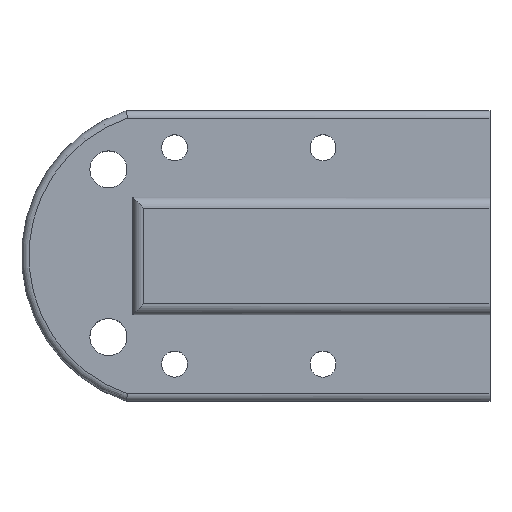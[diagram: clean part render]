
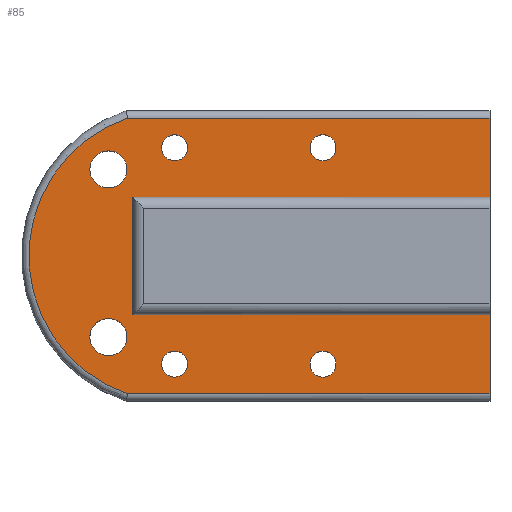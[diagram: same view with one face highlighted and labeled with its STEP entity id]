
A CAD part, top view. The second image highlights one B-rep face of the part: STEP entity #85.
In plain terms, the highlighted planar face has unit normal (0, 0, 1).
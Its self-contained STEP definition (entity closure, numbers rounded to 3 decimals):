
#85=ADVANCED_FACE('',(#3855,#3857,#3859,#3861,#3863,#3865,#3867),#3869,.T.);
#3855=FACE_BOUND('',#3856,.T.);
#3856=EDGE_LOOP('',(#7135,#7136,#7137,#7138,#7139,#7140,#7141,#7142));
#3857=FACE_BOUND('',#3858,.T.);
#3858=EDGE_LOOP('',(#7143));
#3859=FACE_BOUND('',#3860,.T.);
#3860=EDGE_LOOP('',(#7144));
#3861=FACE_BOUND('',#3862,.T.);
#3862=EDGE_LOOP('',(#7145));
#3863=FACE_BOUND('',#3864,.T.);
#3864=EDGE_LOOP('',(#7146));
#3865=FACE_BOUND('',#3866,.T.);
#3866=EDGE_LOOP('',(#7147));
#3867=FACE_BOUND('',#3868,.T.);
#3868=EDGE_LOOP('',(#7148));
#3869=PLANE('',#3870);
#3870=AXIS2_PLACEMENT_3D('',#3871,#3872,#3873);
#3871=CARTESIAN_POINT('',(0.,0.,16.));
#3872=DIRECTION('',(0.,0.,1.));
#3873=DIRECTION('',(1.,0.,0.));
#7135=ORIENTED_EDGE('',*,*,#9525,.F.);
#7136=ORIENTED_EDGE('',*,*,#9526,.F.);
#7137=ORIENTED_EDGE('',*,*,#9527,.F.);
#7138=ORIENTED_EDGE('',*,*,#9528,.F.);
#7139=ORIENTED_EDGE('',*,*,#9529,.T.);
#7140=ORIENTED_EDGE('',*,*,#9530,.T.);
#7141=ORIENTED_EDGE('',*,*,#9531,.T.);
#7142=ORIENTED_EDGE('',*,*,#9532,.F.);
#7143=ORIENTED_EDGE('',*,*,#9166,.T.);
#7144=ORIENTED_EDGE('',*,*,#9168,.T.);
#7145=ORIENTED_EDGE('',*,*,#9533,.T.);
#7146=ORIENTED_EDGE('',*,*,#9534,.T.);
#7147=ORIENTED_EDGE('',*,*,#9535,.T.);
#7148=ORIENTED_EDGE('',*,*,#9536,.T.);
#9166=EDGE_CURVE('',#10362,#10362,#10363,.F.);
#9168=EDGE_CURVE('',#10366,#10366,#10367,.F.);
#9525=EDGE_CURVE('',#11080,#11081,#11082,.T.);
#9526=EDGE_CURVE('',#11083,#11080,#11084,.F.);
#9527=EDGE_CURVE('',#11085,#11083,#11086,.T.);
#9528=EDGE_CURVE('',#11087,#11085,#11088,.T.);
#9529=EDGE_CURVE('',#11087,#11089,#11090,.T.);
#9530=EDGE_CURVE('',#11089,#11091,#11092,.T.);
#9531=EDGE_CURVE('',#11091,#11093,#11094,.T.);
#9532=EDGE_CURVE('',#11081,#11093,#11095,.T.);
#9533=EDGE_CURVE('',#11096,#11096,#11097,.F.);
#9534=EDGE_CURVE('',#11098,#11098,#11099,.F.);
#9535=EDGE_CURVE('',#11100,#11100,#11101,.T.);
#9536=EDGE_CURVE('',#11102,#11102,#11103,.T.);
#10362=VERTEX_POINT('',#12358);
#10363=CIRCLE('',#12359,3.5);
#10366=VERTEX_POINT('',#12368);
#10367=CIRCLE('',#12369,3.5);
#11080=VERTEX_POINT('',#14079);
#11081=VERTEX_POINT('',#14080);
#11082=LINE('',#14081,#14082);
#11083=VERTEX_POINT('',#14084);
#11084=LINE('',#14085,#14086);
#11085=VERTEX_POINT('',#14088);
#11086=LINE('',#14089,#14090);
#11087=VERTEX_POINT('',#14092);
#11088=LINE('',#14093,#14094);
#11089=VERTEX_POINT('',#14096);
#11090=LINE('',#14097,#14098);
#11091=VERTEX_POINT('',#14100);
#11092=CIRCLE('',#14101,39.252);
#11093=VERTEX_POINT('',#14105);
#11094=LINE('',#14106,#14107);
#11095=LINE('',#14109,#14110);
#11096=VERTEX_POINT('',#14112);
#11097=CIRCLE('',#14113,3.5);
#11098=VERTEX_POINT('',#14117);
#11099=CIRCLE('',#14118,3.5);
#11100=VERTEX_POINT('',#14122);
#11101=CIRCLE('',#14123,5.);
#11102=VERTEX_POINT('',#14127);
#11103=CIRCLE('',#14128,5.);
#12358=CARTESIAN_POINT('',(-66.5,29.15,16.));
#12359=AXIS2_PLACEMENT_3D('',#12360,#12361,#12362);
#12360=CARTESIAN_POINT('',(-70.,29.15,16.));
#12361=DIRECTION('',(0.,0.,1.));
#12362=DIRECTION('',(1.,0.,0.));
#12368=CARTESIAN_POINT('',(-26.5,29.15,16.));
#12369=AXIS2_PLACEMENT_3D('',#12370,#12371,#12372);
#12370=CARTESIAN_POINT('',(-30.,29.15,16.));
#12371=DIRECTION('',(0.,0.,1.));
#12372=DIRECTION('',(1.,0.,0.));
#14079=CARTESIAN_POINT('',(-81.252,-15.841,16.));
#14080=CARTESIAN_POINT('',(15.,-15.841,16.));
#14081=CARTESIAN_POINT('',(-81.252,-15.841,16.));
#14082=VECTOR('',#14083,1.);
#14083=DIRECTION('',(1.,0.,0.));
#14084=CARTESIAN_POINT('',(-81.252,15.841,16.));
#14085=CARTESIAN_POINT('',(-81.252,-15.841,16.));
#14086=VECTOR('',#14087,1.);
#14087=DIRECTION('',(0.,1.,0.));
#14088=CARTESIAN_POINT('',(15.,15.841,16.));
#14089=CARTESIAN_POINT('',(15.,15.841,16.));
#14090=VECTOR('',#14091,1.);
#14091=DIRECTION('',(-1.,0.,0.));
#14092=CARTESIAN_POINT('',(15.,37.15,16.));
#14093=CARTESIAN_POINT('',(15.,37.15,16.));
#14094=VECTOR('',#14095,1.);
#14095=DIRECTION('',(0.,-1.,0.));
#14096=CARTESIAN_POINT('',(-82.672,37.15,16.));
#14097=CARTESIAN_POINT('',(15.,37.15,16.));
#14098=VECTOR('',#14099,1.);
#14099=DIRECTION('',(-1.,0.,0.));
#14100=CARTESIAN_POINT('',(-82.672,-37.15,16.));
#14101=AXIS2_PLACEMENT_3D('',#14102,#14103,#14104);
#14102=CARTESIAN_POINT('',(-70.,0.,16.));
#14103=DIRECTION('',(0.,-0.,1.));
#14104=DIRECTION('',(-0.323,0.946,0.));
#14105=CARTESIAN_POINT('',(15.,-37.15,16.));
#14106=CARTESIAN_POINT('',(-82.672,-37.15,16.));
#14107=VECTOR('',#14108,1.);
#14108=DIRECTION('',(1.,0.,0.));
#14109=CARTESIAN_POINT('',(15.,-15.841,16.));
#14110=VECTOR('',#14111,1.);
#14111=DIRECTION('',(0.,-1.,0.));
#14112=CARTESIAN_POINT('',(-26.5,-29.15,16.));
#14113=AXIS2_PLACEMENT_3D('',#14114,#14115,#14116);
#14114=CARTESIAN_POINT('',(-30.,-29.15,16.));
#14115=DIRECTION('',(0.,0.,1.));
#14116=DIRECTION('',(1.,0.,0.));
#14117=CARTESIAN_POINT('',(-66.5,-29.15,16.));
#14118=AXIS2_PLACEMENT_3D('',#14119,#14120,#14121);
#14119=CARTESIAN_POINT('',(-70.,-29.15,16.));
#14120=DIRECTION('',(0.,0.,1.));
#14121=DIRECTION('',(1.,0.,0.));
#14122=CARTESIAN_POINT('',(-92.818,-21.851,16.));
#14123=AXIS2_PLACEMENT_3D('',#14124,#14125,#14126);
#14124=CARTESIAN_POINT('',(-87.818,-21.851,16.));
#14125=DIRECTION('',(-0.,-0.,-1.));
#14126=DIRECTION('',(-1.,0.,0.));
#14127=CARTESIAN_POINT('',(-92.818,23.326,16.));
#14128=AXIS2_PLACEMENT_3D('',#14129,#14130,#14131);
#14129=CARTESIAN_POINT('',(-87.818,23.326,16.));
#14130=DIRECTION('',(-0.,-0.,-1.));
#14131=DIRECTION('',(-1.,0.,0.));
